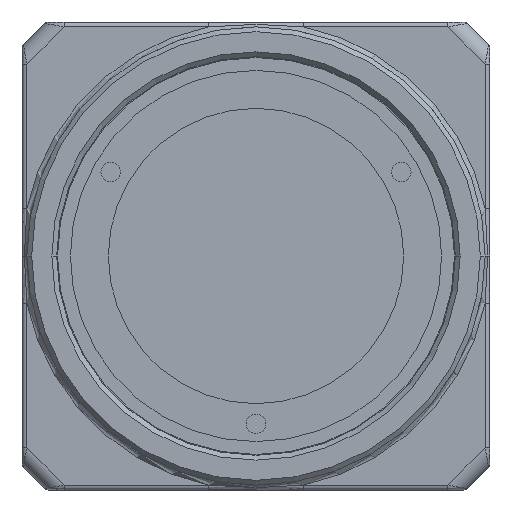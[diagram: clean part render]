
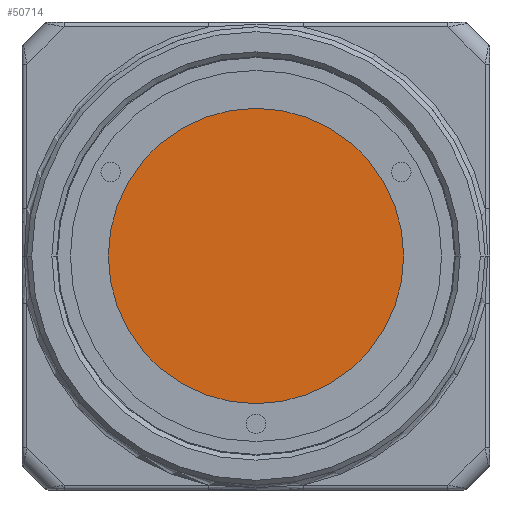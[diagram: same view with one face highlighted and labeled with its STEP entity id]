
A CAD part, left-side view. The second image highlights one B-rep face of the part: STEP entity #50714.
In plain terms, the highlighted planar face has unit normal (-1, 0, 0).
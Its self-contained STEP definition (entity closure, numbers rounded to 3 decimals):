
#12765=CARTESIAN_POINT('',(0.1,0.,0.));
#12766=DIRECTION('',(1.,0.,0.));
#12767=DIRECTION('',(0.,1.,0.));
#12768=AXIS2_PLACEMENT_3D('',#12765,#12766,#12767);
#12770=CARTESIAN_POINT('',(0.1,0.,0.));
#12771=DIRECTION('',(1.,0.,0.));
#12772=DIRECTION('',(0.,-1.,0.));
#12773=AXIS2_PLACEMENT_3D('',#12770,#12771,#12772);
#37475=CARTESIAN_POINT('',(0.1,9.15,0.));
#37476=CARTESIAN_POINT('',(0.1,-9.15,0.));
#37477=VERTEX_POINT('',#37475);
#37478=VERTEX_POINT('',#37476);
#50704=CARTESIAN_POINT('',(0.1,0.,0.));
#50705=DIRECTION('',(1.,0.,0.));
#50706=DIRECTION('',(0.,-1.,0.));
#50707=AXIS2_PLACEMENT_3D('',#50704,#50705,#50706);
#50708=PLANE('',#50707);
#50709=ORIENTED_EDGE('',*,*,#50694,.T.);
#50711=ORIENTED_EDGE('',*,*,#50710,.T.);
#50712=EDGE_LOOP('',(#50709,#50711));
#50713=FACE_OUTER_BOUND('',#50712,.F.);
#50714=ADVANCED_FACE('',(#50713),#50708,.F.);
#12769=CIRCLE('',#12768,9.15);
#12774=CIRCLE('',#12773,9.15);
#50694=EDGE_CURVE('',#37477,#37478,#12769,.T.);
#50710=EDGE_CURVE('',#37478,#37477,#12774,.T.);
